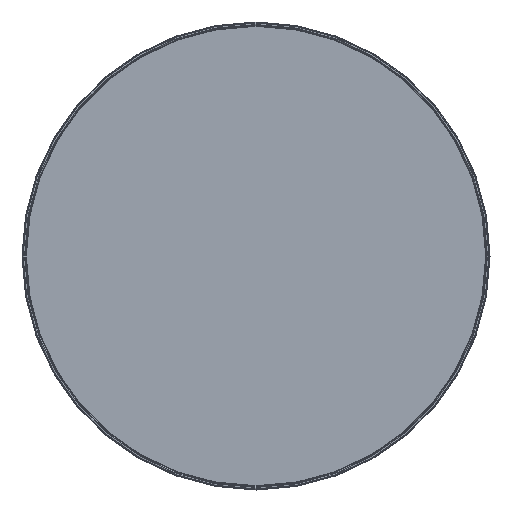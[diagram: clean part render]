
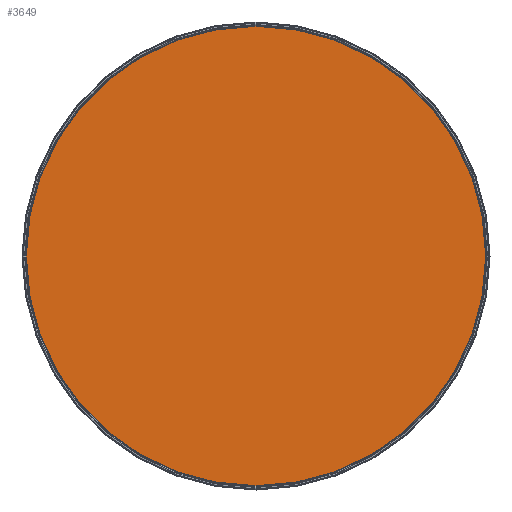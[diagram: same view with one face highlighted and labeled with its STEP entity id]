
A CAD part, front view. The second image highlights one B-rep face of the part: STEP entity #3649.
In plain terms, the highlighted planar face has unit normal (0, -1, 0).
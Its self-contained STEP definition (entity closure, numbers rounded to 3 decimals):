
#226 = CIRCLE ( 'NONE', #3857, 396.5 ) ;
#366 = AXIS2_PLACEMENT_3D ( 'NONE', #873, #3421, #2185 ) ;
#440 = ORIENTED_EDGE ( 'NONE', *, *, #2843, .T. ) ;
#486 = DIRECTION ( 'NONE',  ( 0., 0., 1. ) ) ;
#621 = CARTESIAN_POINT ( 'NONE',  ( 0., -2.9, 396.5 ) ) ;
#831 = CIRCLE ( 'NONE', #366, 396.5 ) ;
#873 = CARTESIAN_POINT ( 'NONE',  ( 0., -2.9, 0. ) ) ;
#1106 = PLANE ( 'NONE',  #2543 ) ;
#1395 = FACE_OUTER_BOUND ( 'NONE', #3702, .T. ) ;
#1729 = DIRECTION ( 'NONE',  ( 0., 1., 0. ) ) ;
#1770 = VERTEX_POINT ( 'NONE', #621 ) ;
#1820 = EDGE_CURVE ( 'NONE', #3970, #1770, #831, .T. ) ;
#2172 = DIRECTION ( 'NONE',  ( 0., -1., 0. ) ) ;
#2185 = DIRECTION ( 'NONE',  ( 0., 0., -1. ) ) ;
#2362 = CARTESIAN_POINT ( 'NONE',  ( 0., -2.9, 0. ) ) ;
#2487 = CARTESIAN_POINT ( 'NONE',  ( 0., -2.9, 0. ) ) ;
#2543 = AXIS2_PLACEMENT_3D ( 'NONE', #2362, #1729, #486 ) ;
#2843 = EDGE_CURVE ( 'NONE', #1770, #3970, #226, .T. ) ;
#3421 = DIRECTION ( 'NONE',  ( 0., -1., 0. ) ) ;
#3523 = CARTESIAN_POINT ( 'NONE',  ( 0., -2.9, -396.5 ) ) ;
#3636 = ORIENTED_EDGE ( 'NONE', *, *, #1820, .T. ) ;
#3649 = ADVANCED_FACE ( 'NONE', ( #1395 ), #1106, .F. ) ;
#3702 = EDGE_LOOP ( 'NONE', ( #3636, #440 ) ) ;
#3714 = DIRECTION ( 'NONE',  ( 0., 0., -1. ) ) ;
#3857 = AXIS2_PLACEMENT_3D ( 'NONE', #2487, #2172, #3714 ) ;
#3970 = VERTEX_POINT ( 'NONE', #3523 ) ;
